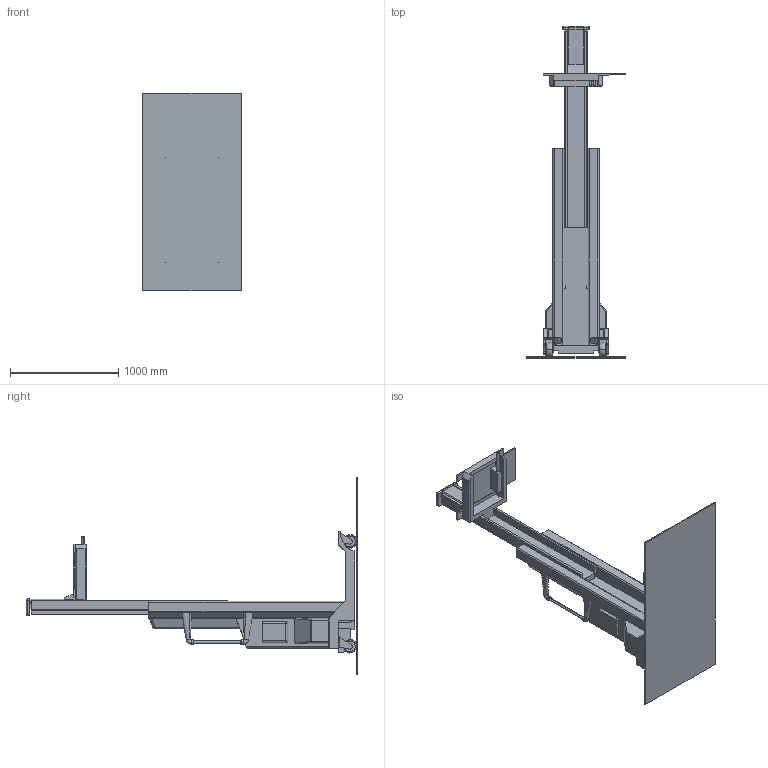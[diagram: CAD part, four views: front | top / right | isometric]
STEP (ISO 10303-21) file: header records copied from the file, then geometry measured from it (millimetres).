
FILE_DESCRIPTION (( 'STEP AP203' ), '1' );
FILE_NAME ('Simplified_SL-1000X_Full_Up_Position_11-08-2023.STEP', '2023-11-08T22:45:55', ( '' ), ( '' ), 'SwSTEP 2.0', 'SolidWorks 2021', '' );
FILE_SCHEMA (( 'CONFIG_CONTROL_DESIGN' ));
Length unit declared in the file: millimetre
Products named in the file (11): RT-23177 Floor Tile, 36x72in; RT-23178 Simplified Platform Surface, SL1000X; RT-23179 Simplified Platform Frame, SL1000X; RT-23186 Simplified Base Frame, SL1000X; RT-23188 Simplified Outer Column, SL1000X; RT-23187 Assy, Simplified Base, SL1000X; RT-23182 Assy, Simplified Platform, SL1000X_Full_Extend; Simplified_SL-1000X_Full_Up_Position_11-08-2023; RT-23189 Simplified Inner Column, SL1000X; RT-23172 Simplified Caster, 5inch; RT-23181 Simplified Sheet Metal and Covers, SL1000X
Assembly tree (13 placements, depth 3):
  Simplified_SL-1000X_Full_Up_Position_11-08-2023
    RT-23187 Assy, Simplified Base, SL1000X
      RT-23186 Simplified Base Frame, SL1000X
      RT-23172 Simplified Caster, 5inch  x4
      RT-23177 Floor Tile, 36x72in
    RT-23188 Simplified Outer Column, SL1000X
    RT-23189 Simplified Inner Column, SL1000X
    RT-23182 Assy, Simplified Platform, SL1000X_Full_Extend
      RT-23179 Simplified Platform Frame, SL1000X
      RT-23178 Simplified Platform Surface, SL1000X
    RT-23181 Simplified Sheet Metal and Covers, SL1000X
Bounding box: 914.4 x 3066.21 x 1828.8 mm (x, y, z)
Volume: 259604783.7 mm3; surface area: 13050214.7 mm2
Topology: 11 solids, 11 shells, 579 faces, 1498 edges, 942 vertices
Faces by surface type: plane 351, cylinder 164, torus 34, sphere 22, bspline 8
Entity records: 18327 total; most frequent: CARTESIAN_POINT 4846, ORIENTED_EDGE 2582, DIRECTION 2533, EDGE_CURVE 1291, VECTOR 873, LINE 873, AXIS2_PLACEMENT_3D 830, VERTEX_POINT 816
